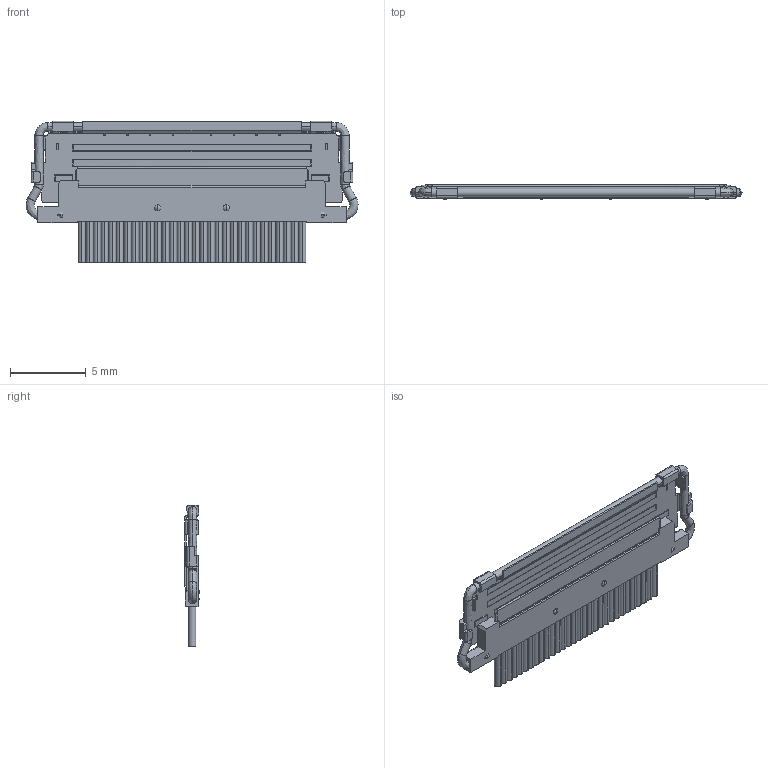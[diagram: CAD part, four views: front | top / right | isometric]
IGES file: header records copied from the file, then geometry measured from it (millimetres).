
Start section: SolidWorks IGES file using analytic representation for surfaces
Global section: file name: Q:\各製品共有\CABLINE-VSII 共有\3Dデータ\IGES\20846-030T-01C PLUG CABLE ASS'Y STEP R0R0R0 Intel.IGS; native system: SolidWorks 2014; preprocessor: SolidWorks 2014; author: 08816; date: 170524.094759; units: millimetre
Bounding box: 21.85 x 0.95 x 9.32 mm (x, y, z)
Surface area: 545.2 mm2 (no closed solid volume)
Topology: 0 solids, 0 shells, 598 faces, 4802 edges, 4798 vertices
Faces by surface type: bspline 367, revolution 231
